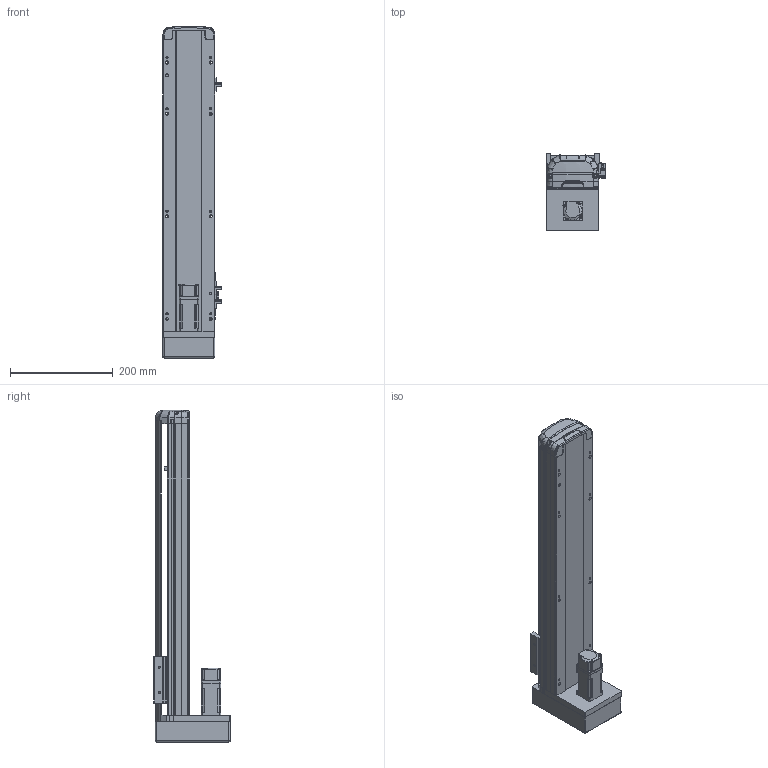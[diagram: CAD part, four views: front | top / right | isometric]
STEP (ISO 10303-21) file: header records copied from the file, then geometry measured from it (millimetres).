
FILE_DESCRIPTION (( 'STEP AP214' ), '1' );
FILE_NAME ('RTH10-XX-400-M-M10-C4.STEP', '2025-10-25T05:44:33', ( 'Microsoft' ), ( 'Microsoft' ), 'SwSTEP 2.0', 'SolidWorks 2018', '' );
FILE_SCHEMA (( 'AUTOMOTIVE_DESIGN' ));
Length unit declared in the file: millimetre
Products named in the file (10): N_RTH12-GY-004-賑釱^RTH10-XX-100-M-M10-C4; N_RTH12-GY-001P^RTH10-XX-100-M-M10-C4; N_RTH12-M-008-萇儂啣^RTH10-XX-100-M-M10-C4; N_RTH12-M-018-裔赽^RTH10-XX-100-M-M10-C4; N_OMRON EE-SX672 传感器^RTH10-XX-100-M-M10-C4; N_RTH12-M-007P-奻裔^RTH10-XX-100-M-M10-C4; N_RTH12-M-011P-臏倰第菁釱^RTH10-XX-100-M-M10-C4; RTH10-XX-400-M-M10-C4; N_RTH13-L-012覜茼え俋离^RTH10-XX-100-M-M10-C4; N_P10^RTH10-XX-100-M-M10-C4
Assembly tree (11 placements, depth 2):
  RTH10-XX-400-M-M10-C4
    N_RTH12-M-011P-臏倰第菁釱^RTH10-XX-100-M-M10-C4
    N_RTH13-L-012覜茼え俋离^RTH10-XX-100-M-M10-C4
    N_OMRON EE-SX672 传感器^RTH10-XX-100-M-M10-C4  x3
    N_P10^RTH10-XX-100-M-M10-C4
    N_RTH12-M-007P-奻裔^RTH10-XX-100-M-M10-C4
    N_RTH12-M-008-萇儂啣^RTH10-XX-100-M-M10-C4
    N_RTH12-M-018-裔赽^RTH10-XX-100-M-M10-C4
    N_RTH12-GY-004-賑釱^RTH10-XX-100-M-M10-C4
    N_RTH12-GY-001P^RTH10-XX-100-M-M10-C4
Bounding box: 116.5 x 149 x 647.14 mm (x, y, z)
Volume: 3208712.8 mm3; surface area: 490303.6 mm2
Topology: 10 solids, 12 shells, 1913 faces, 5329 edges, 3495 vertices
Faces by surface type: plane 951, bspline 472, cylinder 455, cone 29, sphere 4, torus 2
Entity records: 57365 total; most frequent: CARTESIAN_POINT 22947, ORIENTED_EDGE 7730, DIRECTION 5907, EDGE_CURVE 3871, VERTEX_POINT 2539, VECTOR 2045, LINE 2045, AXIS2_PLACEMENT_3D 1931
